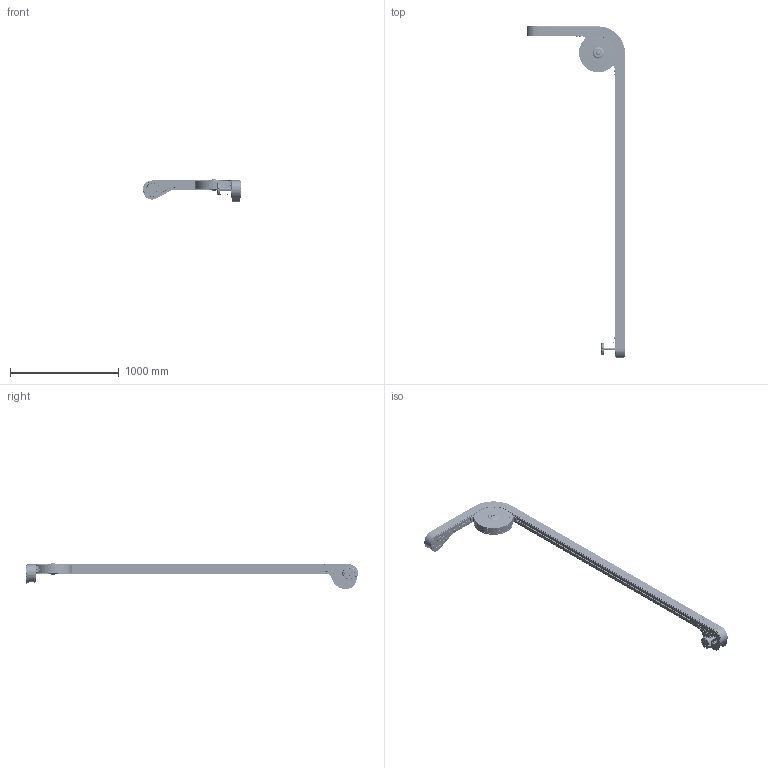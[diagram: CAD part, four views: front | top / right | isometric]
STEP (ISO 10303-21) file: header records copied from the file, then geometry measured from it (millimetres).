
FILE_DESCRIPTION (( 'STEP AP203' ), '1' );
FILE_NAME ('NASTRO_2010.step', '2026-04-29T06:39:28', ( 'Utente Windows' ), ( '' ), 'SwSTEP 2.0', 'SolidWorks 2024', '' );
FILE_SCHEMA (( 'CONFIG_CONTROL_DESIGN' ));
Length unit declared in the file: millimetre
Products named in the file (86): 0820UNI5739-A2; TO; 20UNI6592-A2; RASAMENTO 25X35X1 - DIN 988_20x28x1,2; SEMICOLLARE A3 25 C; 2010.000.016; 2010.000.013; 2010.000.001_Default<A macchina>; 2010.000.056; 54801; 25UNI7435-A2; 6205_2RS_SFERA; 2010.325.P.590_SX; 2010.000.015; 800.100.014 - CURVA ESTERNA 90 - 325_Default<A macchina>; 2010.000.055; 084.802.062; 2000.879.325B; K325_1_Default<A macchina>; 2010.000.063; 0408UNI5933-A2; 0625UNI5737-A2; 06UNI6592-A2; 2010.000.010_Default<A macchina>; 2010.000.040; JFM-2528-12; 2010.000.014; COLLARE A3 25 C; RONDELLE UNI 6592_4.3x9 UNI 6592; 0814UNI5923-A2; 2010.000.053; 0832UNI6593-A2; 2010.000.005; 084.307.006; CHIAVETTE_A 8x7x20 UNI 6604-69; 2010.000.086_Default<A macchina>; 0820ISO2342-A2; 0816UNI7380-A2; CHIAVETTE_A 8x7x35 UNI 6604-69; 0812UNI5739-A2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
Assembly tree (259 placements, depth 4):
  NASTRO_2010
    K325_1_Default<A macchina>
    K325_7_Default<A macchina>
    2010.325.P.1B49.BR
      2010.000.003
      2010.000.004
      2010.000.013
      084.808.013
      2010.000.017
      0408UNI5933-A2  x10
      0408UNI7380-A2  x8
      084.307.006  x2
        084.307.006
        0814UNI5923-A2
      0816UNI7380-A2  x6
      2010.000.005  x2
      2010.000.014
      0832UNI6593-A2
      0820UNI5739-A2
      CHIAVETTE_A 8x7x20 UNI 6604-69  x2
      2010.000.016
      084.802.062
      0820ISO2342-A2
      2010.000.007
      0812UNI5739-A2  x4
      54801
        TO
      CHIAVETTE_A 8x7x35 UNI 6604-69
      2010.000.010_Default<A macchina>
      2010.000.011_Default<A macchina>
      084.803.017
      0612UNI5931-A2  x4
      25UNI7435-A2  x3
      0612UNI5739-A2  x4
      PFL205-SUPPORTO  x4
      6205-2RSBOMB
        6205_2RS_CAGE
        6205_2RS_SFERA  x8
      6205-2RSBOMB
        6205_2RS_AI_AF0
        6205_2RS_CAGE
        6205_2RS_BOMB_AE_AF0
        6205_2RS_SFERA  x9
        6205_2RS_SEAL  x2
      RASAMENTO 25X35X1 - DIN 988_20x28x1,2  x2
    2010.325.P.590_SX
      2010.000.063
      JFM-2528-12  x4
      2010.000.020_Default<A macchina>  x2
      2010.000.040
      084.307.006  x2
        084.307.006
        0814UNI5923-A2
      2010.000.054  x2
      2010.000.053  x2
      2010.000.086_Default<A macchina>  x2
      0412UNI5931-A2  x8
      2010.000.087_Default<A macchina>  x2
      0660UNI5737-A2  x2
      06UNI6592-A2  x8
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Bounding box: 907.61 x 3059.77 x 234.51 mm (x, y, z)
Volume: 17774092.4 mm3; surface area: 6911545.9 mm2
Topology: 314 solids, 314 shells, 18532 faces, 46169 edges, 28606 vertices
Faces by surface type: plane 7816, cylinder 4092, bspline 2760, cone 2138, torus 1288, sphere 438
Entity records: 435716 total; most frequent: CARTESIAN_POINT 159104, ORIENTED_EDGE 57810, DIRECTION 51428, EDGE_CURVE 28905, AXIS2_PLACEMENT_3D 18972, VERTEX_POINT 17937, VECTOR 13484, LINE 13484
